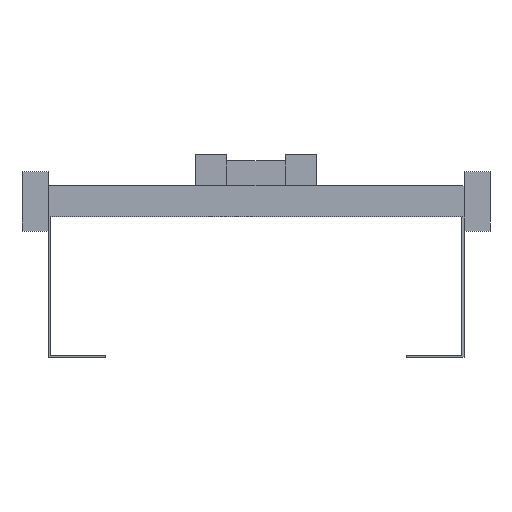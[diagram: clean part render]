
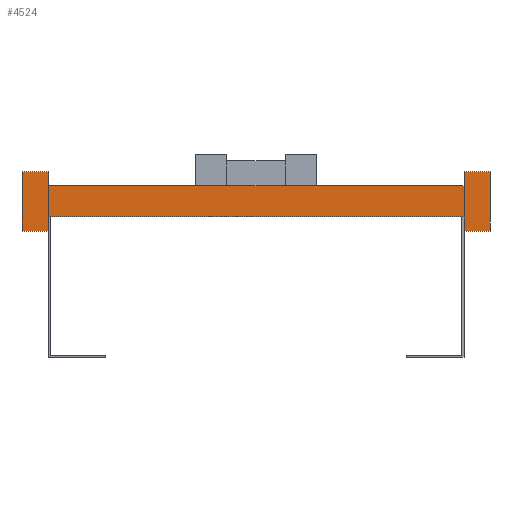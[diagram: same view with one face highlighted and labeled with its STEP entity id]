
A CAD part, front view. The second image highlights one B-rep face of the part: STEP entity #4524.
In plain terms, the highlighted planar face has unit normal (0, -1, 0).
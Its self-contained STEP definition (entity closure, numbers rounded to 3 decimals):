
#113=DIRECTION('',(0.,0.,1.));
#114=VECTOR('',#113,13.5);
#115=CARTESIAN_POINT('',(200.,0.,-28.5));
#116=LINE('',#115,#114);
#117=DIRECTION('',(0.,0.,-1.));
#118=VECTOR('',#117,13.5);
#119=CARTESIAN_POINT('',(-200.,0.,-15.));
#120=LINE('',#119,#118);
#121=DIRECTION('',(-1.,0.,0.));
#122=VECTOR('',#121,25.);
#123=CARTESIAN_POINT('',(-200.,0.,-28.5));
#124=LINE('',#123,#122);
#125=DIRECTION('',(0.,0.,1.));
#126=VECTOR('',#125,57.);
#127=CARTESIAN_POINT('',(-225.,0.,-28.5));
#128=LINE('',#127,#126);
#129=DIRECTION('',(1.,0.,0.));
#130=VECTOR('',#129,25.);
#131=CARTESIAN_POINT('',(-225.,0.,28.5));
#132=LINE('',#131,#130);
#133=DIRECTION('',(0.,0.,-1.));
#134=VECTOR('',#133,13.5);
#135=CARTESIAN_POINT('',(-200.,0.,28.5));
#136=LINE('',#135,#134);
#137=DIRECTION('',(0.,0.,1.));
#138=VECTOR('',#137,13.5);
#139=CARTESIAN_POINT('',(200.,0.,15.));
#140=LINE('',#139,#138);
#141=DIRECTION('',(1.,0.,0.));
#142=VECTOR('',#141,25.);
#143=CARTESIAN_POINT('',(200.,0.,28.5));
#144=LINE('',#143,#142);
#145=DIRECTION('',(0.,0.,-1.));
#146=VECTOR('',#145,57.);
#147=CARTESIAN_POINT('',(225.,0.,28.5));
#148=LINE('',#147,#146);
#149=DIRECTION('',(-1.,0.,0.));
#150=VECTOR('',#149,25.);
#151=CARTESIAN_POINT('',(225.,0.,-28.5));
#152=LINE('',#151,#150);
#3449=DIRECTION('',(1.,0.,0.));
#3450=VECTOR('',#3449,400.);
#3451=CARTESIAN_POINT('',(-200.,0.,-15.));
#3452=LINE('',#3451,#3450);
#3461=DIRECTION('',(1.,0.,0.));
#3462=VECTOR('',#3461,400.);
#3463=CARTESIAN_POINT('',(-200.,0.,15.));
#3464=LINE('',#3463,#3462);
#3465=CARTESIAN_POINT('',(-225.,0.,28.5));
#3466=CARTESIAN_POINT('',(-200.,0.,28.5));
#3467=VERTEX_POINT('',#3465);
#3468=VERTEX_POINT('',#3466);
#3469=CARTESIAN_POINT('',(-200.,0.,-28.5));
#3470=CARTESIAN_POINT('',(-225.,0.,-28.5));
#3471=VERTEX_POINT('',#3469);
#3472=VERTEX_POINT('',#3470);
#3473=CARTESIAN_POINT('',(225.,0.,28.5));
#3474=CARTESIAN_POINT('',(225.,0.,-28.5));
#3475=VERTEX_POINT('',#3473);
#3476=VERTEX_POINT('',#3474);
#3477=CARTESIAN_POINT('',(200.,0.,-28.5));
#3478=VERTEX_POINT('',#3477);
#3479=CARTESIAN_POINT('',(200.,0.,28.5));
#3480=VERTEX_POINT('',#3479);
#3497=CARTESIAN_POINT('',(-200.,0.,-15.));
#3499=VERTEX_POINT('',#3497);
#3501=CARTESIAN_POINT('',(-200.,0.,15.));
#3503=VERTEX_POINT('',#3501);
#3505=CARTESIAN_POINT('',(200.,0.,-15.));
#3507=VERTEX_POINT('',#3505);
#3509=CARTESIAN_POINT('',(200.,0.,15.));
#3511=VERTEX_POINT('',#3509);
#4493=CARTESIAN_POINT('',(0.,0.,0.));
#4494=DIRECTION('',(0.,1.,0.));
#4495=DIRECTION('',(1.,0.,0.));
#4496=AXIS2_PLACEMENT_3D('',#4493,#4494,#4495);
#4497=PLANE('',#4496);
#4499=ORIENTED_EDGE('',*,*,#4498,.T.);
#4501=ORIENTED_EDGE('',*,*,#4500,.F.);
#4503=ORIENTED_EDGE('',*,*,#4502,.T.);
#4505=ORIENTED_EDGE('',*,*,#4504,.T.);
#4507=ORIENTED_EDGE('',*,*,#4506,.T.);
#4509=ORIENTED_EDGE('',*,*,#4508,.T.);
#4511=ORIENTED_EDGE('',*,*,#4510,.T.);
#4513=ORIENTED_EDGE('',*,*,#4512,.T.);
#4515=ORIENTED_EDGE('',*,*,#4514,.T.);
#4517=ORIENTED_EDGE('',*,*,#4516,.T.);
#4519=ORIENTED_EDGE('',*,*,#4518,.T.);
#4521=ORIENTED_EDGE('',*,*,#4520,.T.);
#4522=EDGE_LOOP('',(#4499,#4501,#4503,#4505,#4507,#4509,#4511,#4513,#4515,#4517,
#4519,#4521));
#4523=FACE_OUTER_BOUND('',#4522,.F.);
#4498=EDGE_CURVE('',#3478,#3507,#116,.T.);
#4500=EDGE_CURVE('',#3499,#3507,#3452,.T.);
#4502=EDGE_CURVE('',#3499,#3471,#120,.T.);
#4504=EDGE_CURVE('',#3471,#3472,#124,.T.);
#4506=EDGE_CURVE('',#3472,#3467,#128,.T.);
#4508=EDGE_CURVE('',#3467,#3468,#132,.T.);
#4510=EDGE_CURVE('',#3468,#3503,#136,.T.);
#4512=EDGE_CURVE('',#3503,#3511,#3464,.T.);
#4514=EDGE_CURVE('',#3511,#3480,#140,.T.);
#4516=EDGE_CURVE('',#3480,#3475,#144,.T.);
#4518=EDGE_CURVE('',#3475,#3476,#148,.T.);
#4520=EDGE_CURVE('',#3476,#3478,#152,.T.);
#4524=ADVANCED_FACE('',(#4523),#4497,.F.);
